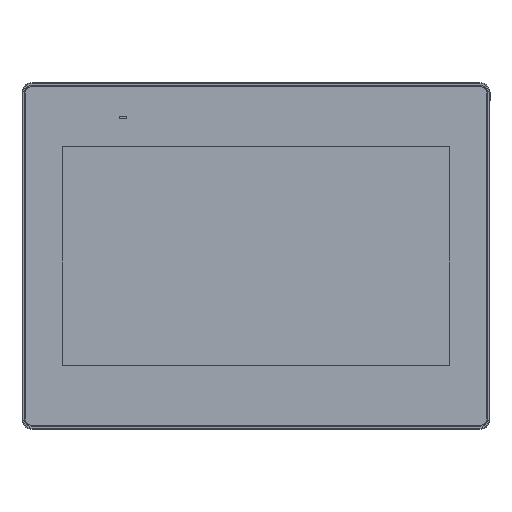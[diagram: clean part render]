
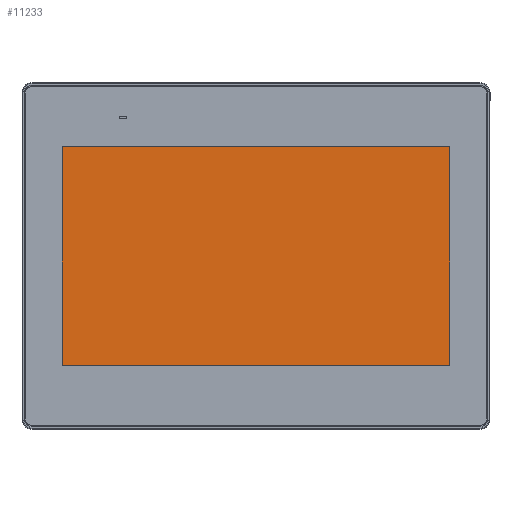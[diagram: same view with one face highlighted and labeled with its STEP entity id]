
A CAD part, top view. The second image highlights one B-rep face of the part: STEP entity #11233.
In plain terms, the highlighted planar face has unit normal (0, 0, 1).
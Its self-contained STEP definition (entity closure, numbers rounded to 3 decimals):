
#376 = FACE_OUTER_BOUND ( 'NONE', #31432, .T. ) ;
#528 = VECTOR ( 'NONE', #36009, 1000. ) ;
#1454 = CARTESIAN_POINT ( 'NONE',  ( 135.25, 163.39, 46.9 ) ) ;
#1891 = VERTEX_POINT ( 'NONE', #16986 ) ;
#1955 = VERTEX_POINT ( 'NONE', #17843 ) ;
#3202 = EDGE_CURVE ( 'NONE', #27156, #5055, #19754, .T. ) ;
#3802 = VECTOR ( 'NONE', #19704, 1000. ) ;
#5055 = VERTEX_POINT ( 'NONE', #11045 ) ;
#6076 = EDGE_CURVE ( 'NONE', #27790, #1891, #36742, .T. ) ;
#6317 = EDGE_CURVE ( 'NONE', #1955, #11307, #22537, .T. ) ;
#6542 = ORIENTED_EDGE ( 'NONE', *, *, #6317, .T. ) ;
#7989 = CARTESIAN_POINT ( 'NONE',  ( 23.39, 100.25, 46.9 ) ) ;
#8542 = DIRECTION ( 'NONE',  ( 1., 0., 0. ) ) ;
#8551 = DIRECTION ( 'NONE',  ( 0., 0., 1. ) ) ;
#8633 = CARTESIAN_POINT ( 'NONE',  ( 23.89, 37.61, 46.9 ) ) ;
#9230 = PLANE ( 'NONE',  #24990 ) ;
#9263 = DIRECTION ( 'NONE',  ( 0., 0., 1. ) ) ;
#9790 = CARTESIAN_POINT ( 'NONE',  ( 23.89, 37.11, 46.9 ) ) ;
#10053 = AXIS2_PLACEMENT_3D ( 'NONE', #35246, #16357, #38350 ) ;
#10310 = ORIENTED_EDGE ( 'NONE', *, *, #3202, .T. ) ;
#11045 = CARTESIAN_POINT ( 'NONE',  ( 247.11, 162.89, 46.9 ) ) ;
#11216 = DIRECTION ( 'NONE',  ( 0., -1., 0. ) ) ;
#11233 = ADVANCED_FACE ( 'NONE', ( #376 ), #9230, .T. ) ;
#11307 = VERTEX_POINT ( 'NONE', #9790 ) ;
#11991 = ORIENTED_EDGE ( 'NONE', *, *, #6076, .T. ) ;
#12716 = DIRECTION ( 'NONE',  ( 0., 0., 1. ) ) ;
#14862 = EDGE_CURVE ( 'NONE', #1891, #1955, #33917, .T. ) ;
#14974 = VECTOR ( 'NONE', #31116, 1000. ) ;
#15555 = ORIENTED_EDGE ( 'NONE', *, *, #17797, .T. ) ;
#16270 = CARTESIAN_POINT ( 'NONE',  ( 246.61, 163.39, 46.9 ) ) ;
#16357 = DIRECTION ( 'NONE',  ( 0., 0., 1. ) ) ;
#16372 = VERTEX_POINT ( 'NONE', #29742 ) ;
#16825 = ORIENTED_EDGE ( 'NONE', *, *, #27458, .T. ) ;
#16986 = CARTESIAN_POINT ( 'NONE',  ( 23.39, 162.89, 46.9 ) ) ;
#17321 = DIRECTION ( 'NONE',  ( 1., 0., 0. ) ) ;
#17415 = DIRECTION ( 'NONE',  ( 0., 0., 1. ) ) ;
#17449 = CARTESIAN_POINT ( 'NONE',  ( 23.89, 162.89, 46.9 ) ) ;
#17797 = EDGE_CURVE ( 'NONE', #11307, #16372, #39076, .T. ) ;
#17843 = CARTESIAN_POINT ( 'NONE',  ( 23.39, 37.61, 46.9 ) ) ;
#18327 = ORIENTED_EDGE ( 'NONE', *, *, #39873, .T. ) ;
#18547 = CIRCLE ( 'NONE', #10053, 0.5 ) ;
#19704 = DIRECTION ( 'NONE',  ( 0., 1., 0. ) ) ;
#19754 = LINE ( 'NONE', #20402, #3802 ) ;
#20402 = CARTESIAN_POINT ( 'NONE',  ( 247.11, 100.25, 46.9 ) ) ;
#20484 = CIRCLE ( 'NONE', #24182, 0.5 ) ;
#21032 = ORIENTED_EDGE ( 'NONE', *, *, #14862, .T. ) ;
#22537 = CIRCLE ( 'NONE', #34798, 0.5 ) ;
#24182 = AXIS2_PLACEMENT_3D ( 'NONE', #28399, #9263, #31512 ) ;
#24631 = VECTOR ( 'NONE', #11216, 1000. ) ;
#24990 = AXIS2_PLACEMENT_3D ( 'NONE', #31736, #12716, #34821 ) ;
#25065 = CARTESIAN_POINT ( 'NONE',  ( 135.25, 37.11, 46.9 ) ) ;
#27156 = VERTEX_POINT ( 'NONE', #34532 ) ;
#27458 = EDGE_CURVE ( 'NONE', #37459, #27790, #34206, .T. ) ;
#27790 = VERTEX_POINT ( 'NONE', #38142 ) ;
#28399 = CARTESIAN_POINT ( 'NONE',  ( 246.61, 162.89, 46.9 ) ) ;
#29742 = CARTESIAN_POINT ( 'NONE',  ( 246.61, 37.11, 46.9 ) ) ;
#31116 = DIRECTION ( 'NONE',  ( 1., 0., 0. ) ) ;
#31432 = EDGE_LOOP ( 'NONE', ( #35024, #10310, #18327, #16825, #11991, #21032, #6542, #15555 ) ) ;
#31512 = DIRECTION ( 'NONE',  ( 1., 0., 0. ) ) ;
#31736 = CARTESIAN_POINT ( 'NONE',  ( 135.25, 100.25, 46.9 ) ) ;
#32115 = EDGE_CURVE ( 'NONE', #16372, #27156, #18547, .T. ) ;
#33917 = LINE ( 'NONE', #7989, #24631 ) ;
#34206 = LINE ( 'NONE', #1454, #528 ) ;
#34532 = CARTESIAN_POINT ( 'NONE',  ( 247.11, 37.61, 46.9 ) ) ;
#34798 = AXIS2_PLACEMENT_3D ( 'NONE', #8633, #8551, #8542 ) ;
#34821 = DIRECTION ( 'NONE',  ( 1., 0., 0. ) ) ;
#35024 = ORIENTED_EDGE ( 'NONE', *, *, #32115, .T. ) ;
#35246 = CARTESIAN_POINT ( 'NONE',  ( 246.61, 37.61, 46.9 ) ) ;
#36009 = DIRECTION ( 'NONE',  ( -1., 0., 0. ) ) ;
#36742 = CIRCLE ( 'NONE', #39686, 0.5 ) ;
#37459 = VERTEX_POINT ( 'NONE', #16270 ) ;
#38142 = CARTESIAN_POINT ( 'NONE',  ( 23.89, 163.39, 46.9 ) ) ;
#38350 = DIRECTION ( 'NONE',  ( 1., 0., 0. ) ) ;
#39076 = LINE ( 'NONE', #25065, #14974 ) ;
#39686 = AXIS2_PLACEMENT_3D ( 'NONE', #17449, #17415, #17321 ) ;
#39873 = EDGE_CURVE ( 'NONE', #5055, #37459, #20484, .T. ) ;
